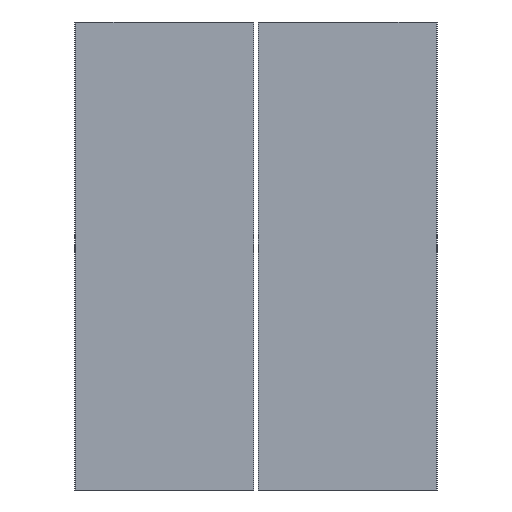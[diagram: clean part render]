
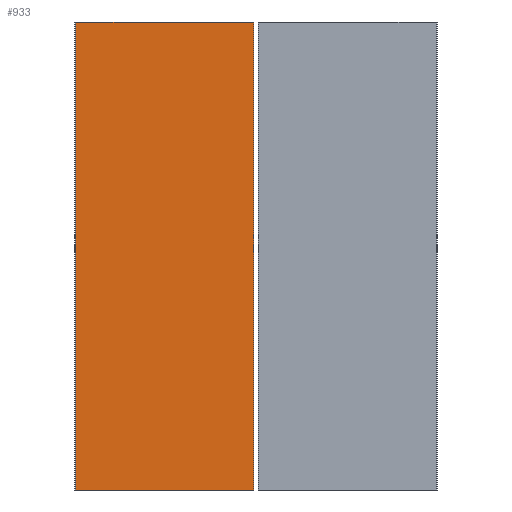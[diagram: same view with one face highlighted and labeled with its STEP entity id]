
A CAD part, front view. The second image highlights one B-rep face of the part: STEP entity #933.
In plain terms, the highlighted planar face has unit normal (0, -1, 0).
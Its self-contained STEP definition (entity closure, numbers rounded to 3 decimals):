
#105=ORIENTED_EDGE('',*,*,#380,.F.);
#106=ORIENTED_EDGE('',*,*,#379,.F.);
#107=ORIENTED_EDGE('',*,*,#381,.T.);
#108=ORIENTED_EDGE('',*,*,#382,.T.);
#379=EDGE_CURVE('',#516,#515,#609,.T.);
#380=EDGE_CURVE('',#515,#517,#610,.T.);
#381=EDGE_CURVE('',#516,#518,#611,.T.);
#382=EDGE_CURVE('',#518,#517,#612,.T.);
#515=VERTEX_POINT('',#1388);
#516=VERTEX_POINT('',#1390);
#517=VERTEX_POINT('',#1394);
#518=VERTEX_POINT('',#1396);
#609=LINE('',#1391,#709);
#610=LINE('',#1393,#710);
#611=LINE('',#1395,#711);
#612=LINE('',#1397,#712);
#709=VECTOR('',#1101,1000.);
#710=VECTOR('',#1104,1000.);
#711=VECTOR('',#1105,1000.);
#712=VECTOR('',#1106,1000.);
#796=EDGE_LOOP('',(#105,#106,#107,#108));
#850=FACE_BOUND('',#796,.T.);
#904=PLANE('',#988);
#933=ADVANCED_FACE('',(#850),#904,.T.);
#988=AXIS2_PLACEMENT_3D('',#1392,#1102,#1103);
#1101=DIRECTION('',(0.,0.,1.));
#1102=DIRECTION('',(0.,-1.,0.));
#1103=DIRECTION('',(0.,0.,-1.));
#1104=DIRECTION('',(1.,0.,0.));
#1105=DIRECTION('',(1.,0.,0.));
#1106=DIRECTION('',(0.,0.,1.));
#1388=CARTESIAN_POINT('',(-38.,0.,0.));
#1390=CARTESIAN_POINT('',(-38.,0.,-200.));
#1391=CARTESIAN_POINT('',(-38.,0.,-200.));
#1392=CARTESIAN_POINT('',(-38.,0.,-200.));
#1393=CARTESIAN_POINT('',(-38.,0.,0.));
#1394=CARTESIAN_POINT('',(38.,0.,0.));
#1395=CARTESIAN_POINT('',(-38.,0.,-200.));
#1396=CARTESIAN_POINT('',(38.,0.,-200.));
#1397=CARTESIAN_POINT('',(38.,0.,-200.));
